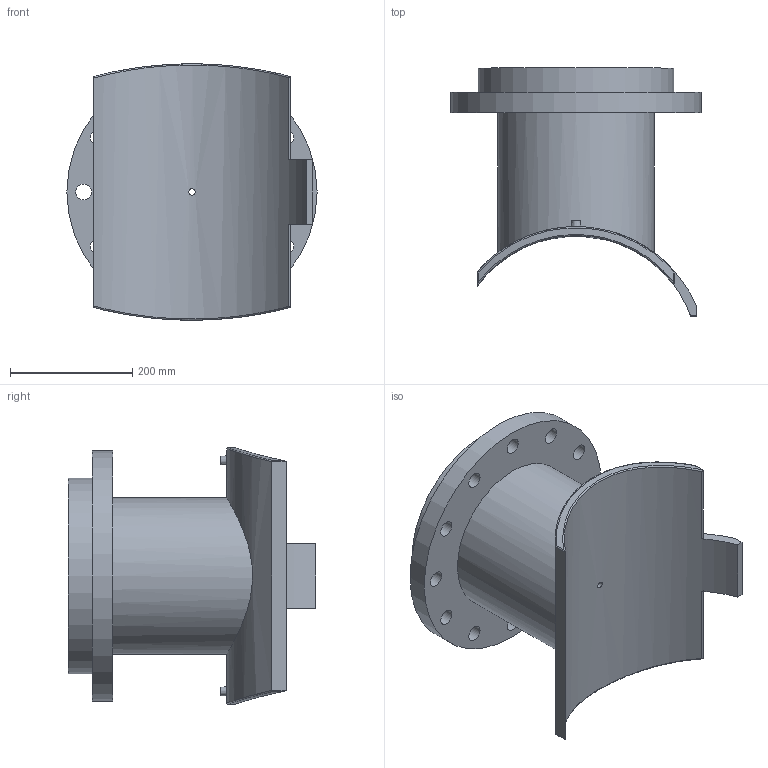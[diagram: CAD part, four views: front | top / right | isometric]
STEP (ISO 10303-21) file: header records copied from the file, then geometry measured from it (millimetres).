
FILE_DESCRIPTION(/* description */ ('PLASSON FLANGED BRANCH SADDLE 400X250'),/* implementation_level */ '2;1');
FILE_NAME(/* name */ 'C:\Dropbox\KIMPROJECTS-Inventor 2019\99-16-3568-Processing\ElectroFusion Fittings\495904_495903\stp\495903400250T.stp',/* time_stamp */ '2024-04-03T21:03:35+02:00',/* author */ ('KIM'),/* organization */ (''),/* preprocessor_version */ 'ST-DEVELOPER v17.2',/* originating_system */ 'Autodesk Inventor 2019',/* authorisation */ '');
FILE_SCHEMA (('AUTOMOTIVE_DESIGN { 1 0 10303 214 3 1 1 }'));
Length unit declared in the file: millimetre
Products named in the file (1): 495903400250T
Bounding box: 410 x 406.21 x 419.94 mm (x, y, z)
Volume: 11182963.9 mm3; surface area: 964170.8 mm2
Topology: 1 solids, 1 shells, 62 faces, 163 edges, 126 vertices
Faces by surface type: cylinder 35, plane 17, sphere 4, bspline 4, cone 2
Full cylindrical faces by diameter (mm): 4 x2, 10 x2, 10.4 x1, 16 x1, 26 x12, 204 x1, 256 x1, 320 x1, 410 x1
Entity records: 2594 total; most frequent: CARTESIAN_POINT 966, DIRECTION 325, ORIENTED_EDGE 298, EDGE_CURVE 149, AXIS2_PLACEMENT_3D 137, VERTEX_POINT 100, EDGE_LOOP 99, CIRCLE 78
